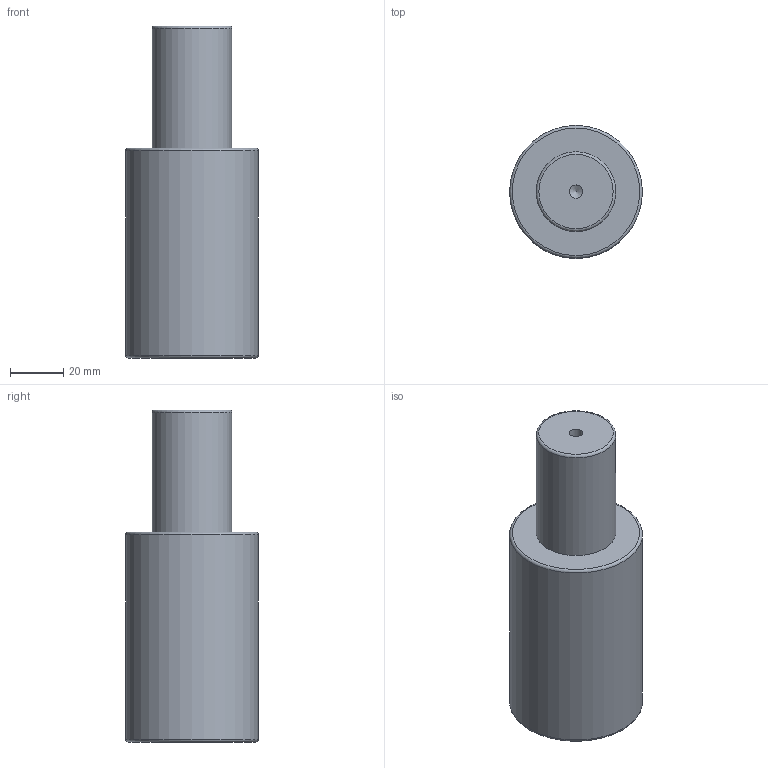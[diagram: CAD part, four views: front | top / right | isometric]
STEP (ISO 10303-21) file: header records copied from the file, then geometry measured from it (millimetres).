
FILE_DESCRIPTION(/* description */ (''),/* implementation_level */ '2;1');
FILE_NAME(/* name */ 'NV5-NML50-45-A.stp',/* time_stamp */ '2018-08-31T16:08:33+02:00',/* author */ (''),/* organization */ (''),/* preprocessor_version */ 'ST-DEVELOPER v16',/* originating_system */ 'SIEMENS PLM Software NX 10.0',/* authorisation */ '');
FILE_SCHEMA (('AUTOMOTIVE_DESIGN { 1 0 10303 214 3 1 1 1 }'));
Length unit declared in the file: millimetre
Products named in the file (1): NV5-SMLX.50x45
Bounding box: 50 x 50 x 125 mm (x, y, z)
Volume: 186306.1 mm3; surface area: 21134.5 mm2
Topology: 1 solids, 1 shells, 12 faces, 24 edges, 15 vertices
Faces by surface type: cylinder 4, torus 3, plane 3, cone 2
Full cylindrical faces by diameter (mm): 5 x1, 8.5 x1, 30 x1, 50 x1
Entity records: 266 total; most frequent: DIRECTION 48, CARTESIAN_POINT 37, FACE_BOUND 24, AXIS2_PLACEMENT_3D 24, EDGE_LOOP 22, ORIENTED_EDGE 22, VERTEX_POINT 13, ADVANCED_FACE 12
